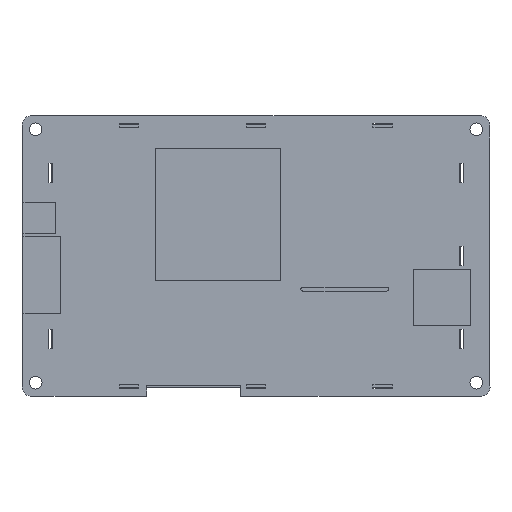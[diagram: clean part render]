
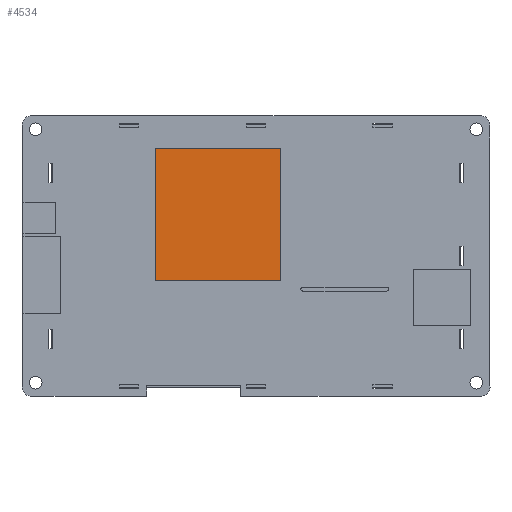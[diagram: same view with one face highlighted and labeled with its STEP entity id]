
A CAD part, top view. The second image highlights one B-rep face of the part: STEP entity #4534.
In plain terms, the highlighted planar face has unit normal (0, 0, 1).
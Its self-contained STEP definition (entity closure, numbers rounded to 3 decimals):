
#2174=DIRECTION('',(0.,-1.,0.));
#2175=VECTOR('',#2174,34.417);
#2176=CARTESIAN_POINT('',(1213.337,829.043,3.));
#2177=LINE('',#2176,#2175);
#2181=DIRECTION('',(-1.,0.,0.));
#2182=VECTOR('',#2181,32.766);
#2183=CARTESIAN_POINT('',(1246.103,829.043,3.));
#2184=LINE('',#2183,#2182);
#2188=DIRECTION('',(0.,1.,0.));
#2189=VECTOR('',#2188,34.417);
#2190=CARTESIAN_POINT('',(1246.103,794.626,3.));
#2191=LINE('',#2190,#2189);
#2195=DIRECTION('',(1.,0.,0.));
#2196=VECTOR('',#2195,32.766);
#2197=CARTESIAN_POINT('',(1213.337,794.626,3.));
#2198=LINE('',#2197,#2196);
#2610=CARTESIAN_POINT('',(1213.337,829.043,3.));
#2611=CARTESIAN_POINT('',(1213.337,794.626,3.));
#2612=VERTEX_POINT('',#2610);
#2613=VERTEX_POINT('',#2611);
#2614=CARTESIAN_POINT('',(1246.103,794.626,3.));
#2615=VERTEX_POINT('',#2614);
#2616=CARTESIAN_POINT('',(1246.103,829.043,3.));
#2617=VERTEX_POINT('',#2616);
#4523=CARTESIAN_POINT('',(1235.689,764.526,3.));
#4524=DIRECTION('',(0.,0.,1.));
#4525=DIRECTION('',(1.,0.,0.));
#4526=AXIS2_PLACEMENT_3D('',#4523,#4524,#4525);
#4527=PLANE('',#4526);
#4528=ORIENTED_EDGE('',*,*,#4475,.F.);
#4529=ORIENTED_EDGE('',*,*,#4490,.F.);
#4530=ORIENTED_EDGE('',*,*,#4504,.F.);
#4531=ORIENTED_EDGE('',*,*,#4517,.F.);
#4532=EDGE_LOOP('',(#4528,#4529,#4530,#4531));
#4533=FACE_OUTER_BOUND('',#4532,.F.);
#4475=EDGE_CURVE('',#2612,#2613,#2177,.T.);
#4490=EDGE_CURVE('',#2617,#2612,#2184,.T.);
#4504=EDGE_CURVE('',#2615,#2617,#2191,.T.);
#4517=EDGE_CURVE('',#2613,#2615,#2198,.T.);
#4534=ADVANCED_FACE('',(#4533),#4527,.T.);
